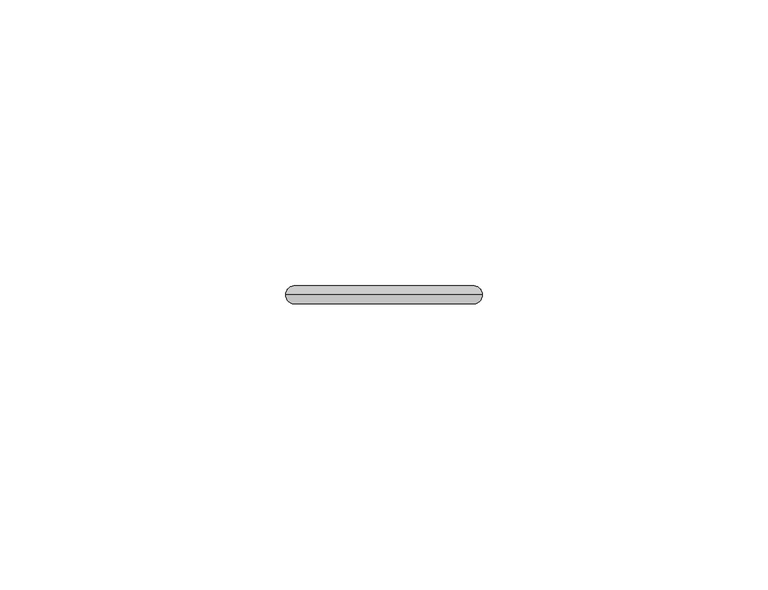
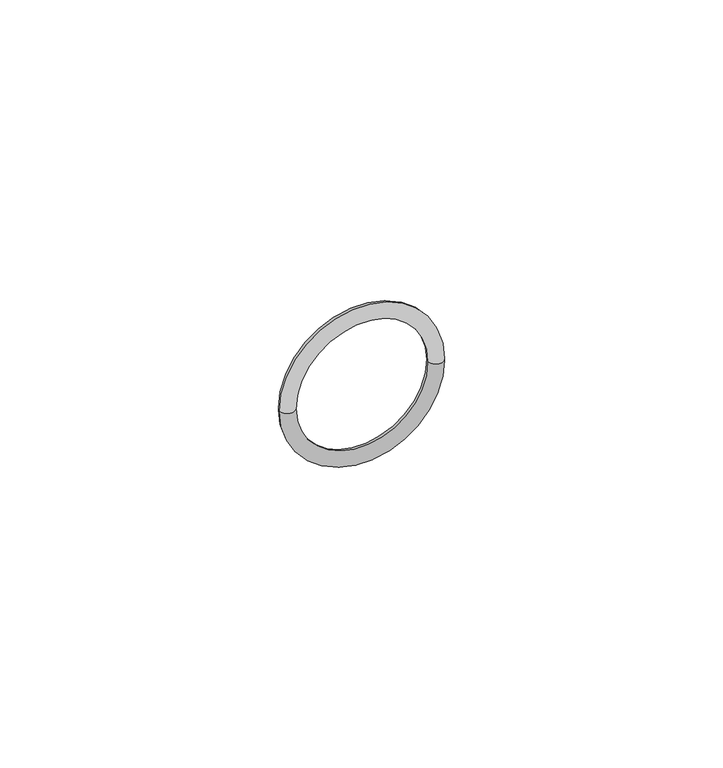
"""IFC4 building model written with IfcOpenShell, lengths in millimetres: pipe fitting geometry, VALTEC_VTi.990.I_Уплотнительное кольцо из FPM : VTi.990.I."""

from ifc_helpers import new_model, si_unit, point, frame, origin, place, context, project, spatial, circle_curve, ellipse_curve, trimmed, source, transform, mapped, element, save
from ifc_brep_helpers import revolved_surface, advanced_brep


def pipe_fitting_57c27fdf(model_context):
    return source(origin(), model_context, "Body", "AdvancedBrep", [
        advanced_brep(
        [(14.0, 0.0, 0.0), (-14.0, 0.0, 0.0), (-17.2, 0.0, 0.0), (17.2, 0.0, 0.0)],
        [
            (0, 1, circle_curve(frame((0.0, 0.0, 0.0), z_axis=(0.0, 1.0, 0.0), x_axis=(-1.0, 0.0, 0.0)), 14.0)),
            (1, 2, circle_curve(frame((-15.6, 0.0, 0.0), z_axis=(0.0, 0.0, -1.0), x_axis=(1.0, 0.0, 0.0)), 1.6)),
            (2, 3, circle_curve(frame((0.0, 0.0, 0.0), z_axis=(0.0, -1.0, 0.0), x_axis=(-1.0, 0.0, 0.0)), 17.2)),
            (3, 0, circle_curve(frame((15.6, 0.0, 0.0), z_axis=(0.0, 0.0, -1.0), x_axis=(-1.0, 0.0, 0.0)), 1.6)),
            (1, 0, circle_curve(frame((0.0, 0.0, 0.0), z_axis=(0.0, 1.0, 0.0), x_axis=(-1.0, 0.0, 0.0)), 14.0)),
            (3, 2, circle_curve(frame((0.0, 0.0, 0.0), z_axis=(0.0, -1.0, 0.0), x_axis=(-1.0, 0.0, 0.0)), 17.2)),
            (2, 1, circle_curve(frame((-15.6, 0.0, 0.0), z_axis=(0.0, 0.0, -1.0), x_axis=(1.0, 0.0, 0.0)), 1.6)),
            (0, 3, circle_curve(frame((15.6, 0.0, 0.0), z_axis=(0.0, 0.0, -1.0), x_axis=(-1.0, 0.0, 0.0)), 1.6)),
        ],
        [
            revolved_surface(trimmed(ellipse_curve(frame((-15.6, 0.0, 0.0), z_axis=(0.0, 0.0, 1.0), x_axis=(1.0, 0.0, 0.0)), 1.6, 1.6), [point((-17.2, 0.0, 0.0))], [point((-14.0, 0.0, 0.0))], True, "CARTESIAN"), (0.0, 1.0336847, 0.0), (0.0, -1.0, 0.0)),
            revolved_surface(trimmed(ellipse_curve(frame((-15.6, 0.0, 0.0), z_axis=(0.0, 0.0, 1.0), x_axis=(1.0, 0.0, 0.0)), 1.6, 1.6), [point((-14.0, 0.0, 0.0))], [point((-17.2, 0.0, 0.0))], True, "CARTESIAN"), (0.0, 1.0336847, 0.0), (0.0, -1.0, 0.0)),
        ],
        [
            (0, [[1, 2, 3, 4]]),
            (0, [[5, -4, 6, -2]]),
            (1, [[-3, 7, -1, 8]]),
            (1, [[-6, -8, -5, -7]]),
        ],
    ),
    ])


if __name__ == "__main__":
    model = new_model("IFC4")
    model_context = context("Model", 3, world=origin())
    ifc_project = project(units=[si_unit("LENGTHUNIT", "METRE", prefix="MILLI")], contexts=[model_context])
    site = spatial("IfcSite", under=ifc_project)
    building = spatial("IfcBuilding", under=site)
    placement = place(None, origin())
    pipe_fitting_shape = pipe_fitting_57c27fdf(model_context)
    element("IfcPipeFitting", 1, ObjectType="VALTEC_VTi.990.I_Уплотнительное кольцо из FPM : VTi.990.I", at=placement, inside=building, context=model_context, shape_type="MappedRepresentation", body=[
        mapped(pipe_fitting_shape, transform((0.0, 0.0, 0.0), x_axis=(1.0, 0.0, 0.0), y_axis=(0.0, 1.0, 0.0), z_axis=(0.0, 0.0, 1.0))),
    ])
    save(model, "model.ifc")
